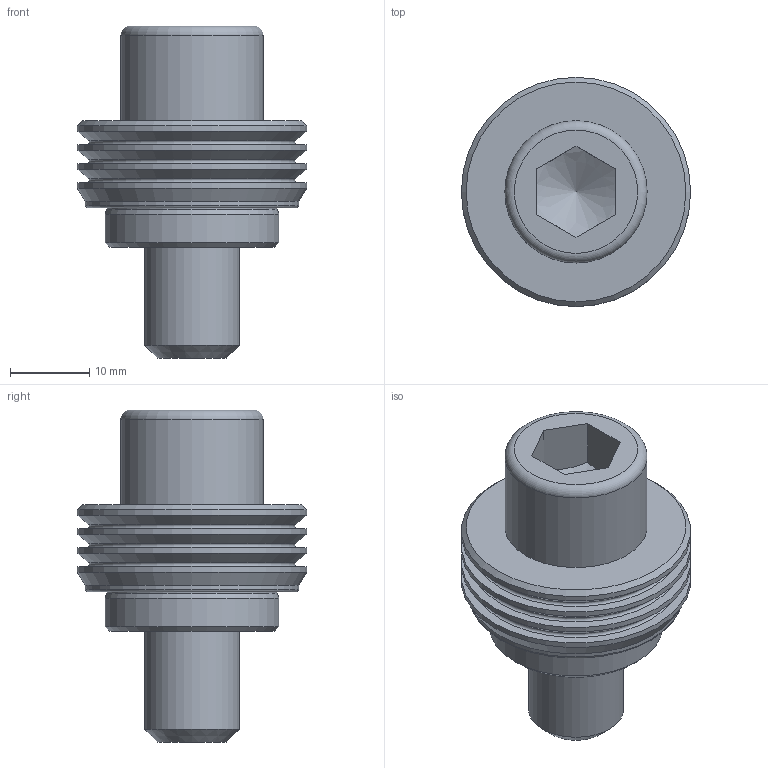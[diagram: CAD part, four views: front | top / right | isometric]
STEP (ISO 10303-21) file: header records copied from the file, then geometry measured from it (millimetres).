
FILE_DESCRIPTION(('STEP AP214'), '1');
FILE_NAME('BB.VS.100.51.011', '', ('UNSPECIFIED'), ('UNSPECIFIED'), 'C3D Converter', 'C3D Toolkit', '');
FILE_SCHEMA(('AUTOMOTIVE_DESIGN { 1 0 10303 214 3 1 1}'));
Length unit declared in the file: millimetre
Products named in the file (1): BB.VS.100.51.011 СБ
Bounding box: 29 x 29 x 42 mm (x, y, z)
Volume: 12176.1 mm3; surface area: 5696.4 mm2
Topology: 1 solids, 1 shells, 43 faces, 85 edges, 51 vertices
Faces by surface type: plane 15, cone 12, cylinder 9, torus 7
Full cylindrical faces by diameter (mm): 12 x1, 13 x1, 18 x1, 22 x1, 27 x1, 29 x4
Entity records: 1583 total; most frequent: CARTESIAN_POINT 417, DIRECTION 174, ORIENTED_EDGE 112, AXIS2_PLACEMENT_3D 81, EDGE_LOOP 78, EDGE_CURVE 56, FACE_OUTER_BOUND 50, VERTEX_POINT 50
